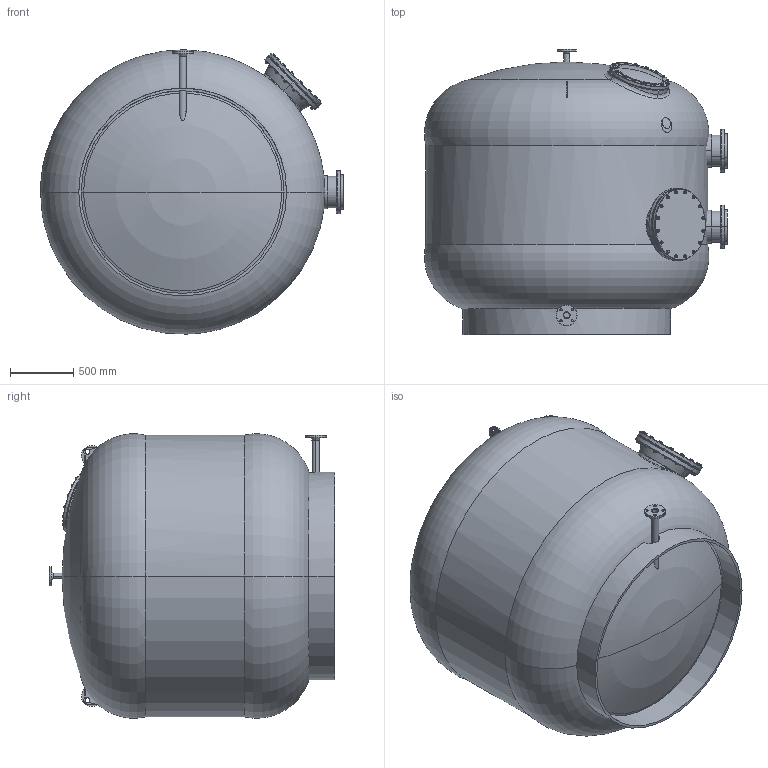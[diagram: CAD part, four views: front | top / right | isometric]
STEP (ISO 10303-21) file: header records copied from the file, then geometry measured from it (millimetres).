
FILE_DESCRIPTION (( 'STEP AP214' ), '1' );
FILE_NAME ('adriatic220c_sb1000_big.STEP', '2020-11-04T13:12:40', ( '' ), ( '' ), 'SwSTEP 2.0', 'SolidWorks 2019', '' );
FILE_SCHEMA (( 'AUTOMOTIVE_DESIGN' ));
Length unit declared in the file: millimetre
Products named in the file (1): adriatic220c_sb1000_big
Bounding box: 2390.66 x 2249.97 x 2242.8 mm (x, y, z)
Surface area: 41688573.7 mm2 (no closed solid volume)
Topology: 0 solids, 129 shells, 1909 faces, 4250 edges, 2601 vertices
Faces by surface type: cylinder 625, cone 593, plane 576, torus 95, bspline 12, sphere 8
Entity records: 105915 total; most frequent: CARTESIAN_POINT 42601, DIRECTION 8354, ORIENTED_EDGE 8352, EDGE_CURVE 4208, AXIS2_PLACEMENT_3D 3602, VERTEX_POINT 2599, EDGE_LOOP 2313, UNCERTAINTY_MEASURE_WITH_UNIT 2024
